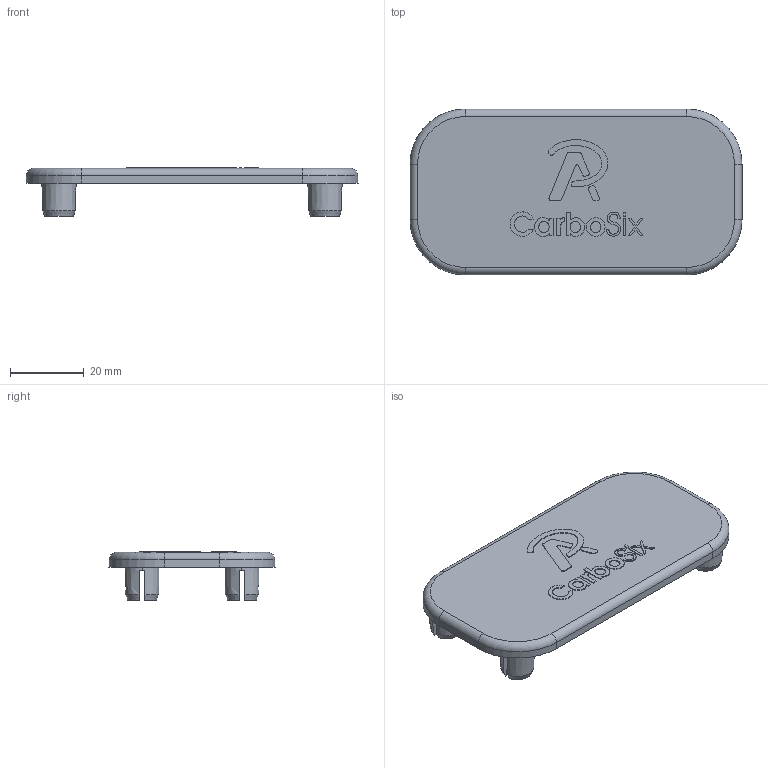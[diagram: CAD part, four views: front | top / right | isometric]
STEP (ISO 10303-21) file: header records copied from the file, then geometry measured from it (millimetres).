
FILE_DESCRIPTION (( 'STEP AP203' ), '1' );
FILE_NAME ('115.201.002.STEP', '2022-05-23T15:11:49', ( '' ), ( '' ), 'SwSTEP 2.0', 'SolidWorks 2021', '' );
FILE_SCHEMA (( 'CONFIG_CONTROL_DESIGN' ));
Length unit declared in the file: millimetre
Products named in the file (1): 115.201.002
Bounding box: 90 x 45 x 13.2 mm (x, y, z)
Volume: 13221 mm3; surface area: 10582 mm2
Topology: 1 solids, 1 shells, 388 faces, 1069 edges, 710 vertices
Faces by surface type: plane 283, bspline 42, cone 36, cylinder 23, torus 4
Entity records: 12908 total; most frequent: CARTESIAN_POINT 3182, ORIENTED_EDGE 2138, DIRECTION 1777, EDGE_CURVE 1069, VECTOR 775, LINE 775, VERTEX_POINT 710, AXIS2_PLACEMENT_3D 501
